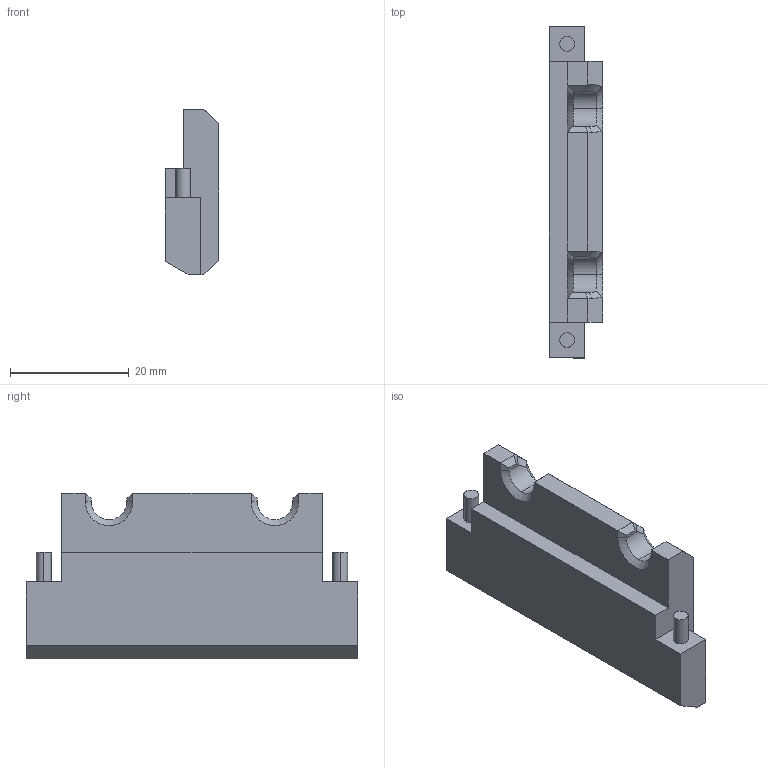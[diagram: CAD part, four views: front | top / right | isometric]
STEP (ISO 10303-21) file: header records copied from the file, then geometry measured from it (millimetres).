
FILE_DESCRIPTION (( 'STEP AP214' ), '1' );
FILE_NAME ('GZ28.07_V1盓傅啣.STEP', '2021-04-11T16:11:18', ( 'hp' ), ( '' ), 'SwSTEP 2.0', 'SolidWorks 2017', '' );
FILE_SCHEMA (( 'AUTOMOTIVE_DESIGN' ));
Length unit declared in the file: millimetre
Products named in the file (1): GZ28.07_V1盓傅啣
Bounding box: 9 x 56 x 28 mm (x, y, z)
Volume: 9946 mm3; surface area: 3939.7 mm2
Topology: 1 solids, 1 shells, 57 faces, 142 edges, 89 vertices
Faces by surface type: plane 39, cylinder 8, cone 6, bspline 4
Entity records: 1887 total; most frequent: CARTESIAN_POINT 532, ORIENTED_EDGE 284, DIRECTION 252, EDGE_CURVE 142, LINE 100, VECTOR 100, VERTEX_POINT 89, AXIS2_PLACEMENT_3D 76
